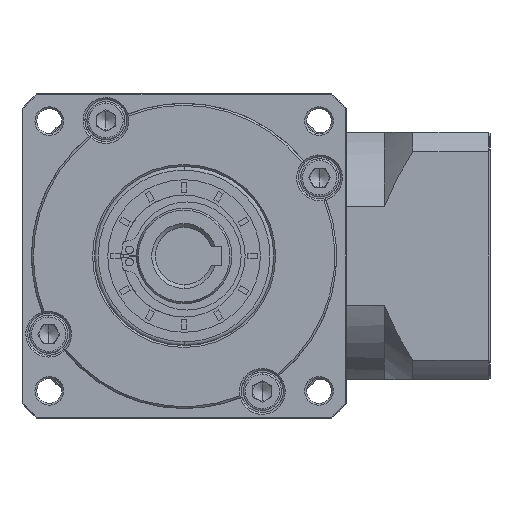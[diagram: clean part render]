
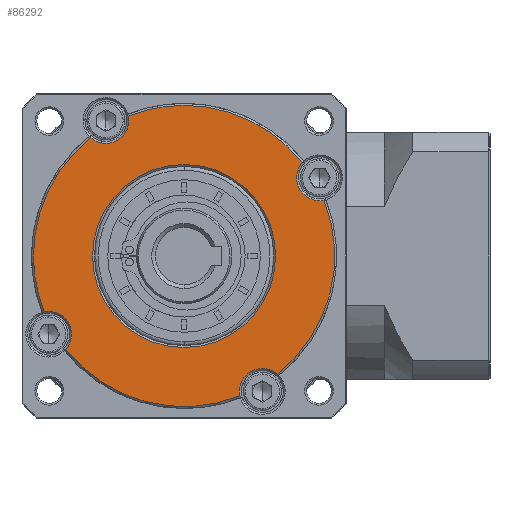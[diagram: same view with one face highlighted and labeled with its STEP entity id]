
A CAD part, left-side view. The second image highlights one B-rep face of the part: STEP entity #86292.
In plain terms, the highlighted planar face has unit normal (-1, 0, 0).
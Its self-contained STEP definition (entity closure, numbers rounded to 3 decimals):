
#1195 = CIRCLE ( 'NONE', #14615, 39.5 ) ;
#2890 = CARTESIAN_POINT ( 'NONE',  ( -97.611, 22.737, -99.292 ) ) ;
#3151 = DIRECTION ( 'NONE',  ( 1., 0., 0. ) ) ;
#5213 = CIRCLE ( 'NONE', #53868, 6. ) ;
#7346 = DIRECTION ( 'NONE',  ( 0., 0., -1. ) ) ;
#8633 = CIRCLE ( 'NONE', #29984, 6. ) ;
#8760 = CARTESIAN_POINT ( 'NONE',  ( -97.611, -1.733, -90.8 ) ) ;
#8909 = ORIENTED_EDGE ( 'NONE', *, *, #165210, .T. ) ;
#9974 = VERTEX_POINT ( 'NONE', #72251 ) ;
#14485 = CARTESIAN_POINT ( 'NONE',  ( -97.611, 22.267, -130.3 ) ) ;
#14615 = AXIS2_PLACEMENT_3D ( 'NONE', #123213, #45192, #136313 ) ;
#16069 = CIRCLE ( 'NONE', #141426, 39.5 ) ;
#16289 = AXIS2_PLACEMENT_3D ( 'NONE', #49496, #140591, #62611 ) ;
#17917 = CARTESIAN_POINT ( 'NONE',  ( -97.611, -25.733, -130.3 ) ) ;
#18061 = CIRCLE ( 'NONE', #103305, 39.5 ) ;
#20543 = VERTEX_POINT ( 'NONE', #2890 ) ;
#21657 = EDGE_CURVE ( 'NONE', #118715, #88411, #87325, .T. ) ;
#22890 = EDGE_CURVE ( 'NONE', #128091, #88411, #128200, .T. ) ;
#23802 = EDGE_CURVE ( 'NONE', #168684, #9974, #5213, .T. ) ;
#26676 = AXIS2_PLACEMENT_3D ( 'NONE', #71726, #162822, #84790 ) ;
#29368 = DIRECTION ( 'NONE',  ( 1., 0., 0. ) ) ;
#29984 = AXIS2_PLACEMENT_3D ( 'NONE', #163444, #85430, #7346 ) ;
#30499 = CARTESIAN_POINT ( 'NONE',  ( -97.611, 37.767, -130.3 ) ) ;
#31376 = CARTESIAN_POINT ( 'NONE',  ( -97.611, 29.275, -154.769 ) ) ;
#33609 = AXIS2_PLACEMENT_3D ( 'NONE', #62277, #153383, #75357 ) ;
#40104 = VERTEX_POINT ( 'NONE', #30499 ) ;
#40509 = CIRCLE ( 'NONE', #168084, 6. ) ;
#41390 = EDGE_LOOP ( 'NONE', ( #121475, #43562, #8909, #106135, #95719, #103578, #113040, #168531, #151539, #49393, #74794, #63487 ) ) ;
#43562 = ORIENTED_EDGE ( 'NONE', *, *, #70971, .T. ) ;
#43854 = CIRCLE ( 'NONE', #109013, 39.5 ) ;
#44463 = CARTESIAN_POINT ( 'NONE',  ( -97.611, -22.233, -165.807 ) ) ;
#45182 = EDGE_CURVE ( 'NONE', #138528, #136750, #16069, .T. ) ;
#45192 = DIRECTION ( 'NONE',  ( 1., 0., 0. ) ) ;
#46348 = CARTESIAN_POINT ( 'NONE',  ( -97.611, -38.428, -115.681 ) ) ;
#49393 = ORIENTED_EDGE ( 'NONE', *, *, #71781, .T. ) ;
#49496 = CARTESIAN_POINT ( 'NONE',  ( -97.611, 18.767, -94.792 ) ) ;
#49551 = DIRECTION ( 'NONE',  ( 1., 0., 0. ) ) ;
#49649 = DIRECTION ( 'NONE',  ( 1., 0., 0. ) ) ;
#52989 = CARTESIAN_POINT ( 'NONE',  ( -97.611, -16.351, -166.995 ) ) ;
#53868 = AXIS2_PLACEMENT_3D ( 'NONE', #127635, #49551, #140649 ) ;
#54988 = AXIS2_PLACEMENT_3D ( 'NONE', #62452, #153547, #75526 ) ;
#55709 = CARTESIAN_POINT ( 'NONE',  ( -97.611, -1.733, -130.3 ) ) ;
#57272 = ORIENTED_EDGE ( 'NONE', *, *, #128700, .T. ) ;
#57564 = DIRECTION ( 'NONE',  ( 0., 0., -1. ) ) ;
#57982 = EDGE_CURVE ( 'NONE', #128091, #136750, #40509, .T. ) ;
#58695 = CARTESIAN_POINT ( 'NONE',  ( -97.611, -1.733, -130.3 ) ) ;
#61420 = EDGE_CURVE ( 'NONE', #144770, #99217, #18061, .T. ) ;
#62277 = CARTESIAN_POINT ( 'NONE',  ( -97.611, -1.733, -130.3 ) ) ;
#62452 = CARTESIAN_POINT ( 'NONE',  ( -97.611, 18.767, -94.792 ) ) ;
#62611 = DIRECTION ( 'NONE',  ( 0., 0., -1. ) ) ;
#63487 = ORIENTED_EDGE ( 'NONE', *, *, #90590, .F. ) ;
#64436 = FACE_OUTER_BOUND ( 'NONE', #41390, .T. ) ;
#65820 = CIRCLE ( 'NONE', #26676, 24. ) ;
#68262 = CIRCLE ( 'NONE', #145189, 24. ) ;
#68769 = DIRECTION ( 'NONE',  ( 0., 1., 0. ) ) ;
#70086 = AXIS2_PLACEMENT_3D ( 'NONE', #107512, #29368, #120554 ) ;
#70113 = AXIS2_PLACEMENT_3D ( 'NONE', #127717, #49649, #140747 ) ;
#70971 = EDGE_CURVE ( 'NONE', #144770, #156547, #133604, .T. ) ;
#71726 = CARTESIAN_POINT ( 'NONE',  ( -97.611, -1.733, -130.3 ) ) ;
#71781 = EDGE_CURVE ( 'NONE', #138528, #168684, #8633, .T. ) ;
#71790 = DIRECTION ( 'NONE',  ( 0., 0., 1. ) ) ;
#72251 = CARTESIAN_POINT ( 'NONE',  ( -97.611, -32.741, -105.83 ) ) ;
#72505 = DIRECTION ( 'NONE',  ( 1., 0., 0. ) ) ;
#73608 = CARTESIAN_POINT ( 'NONE',  ( -97.611, -1.733, -130.3 ) ) ;
#73692 = CARTESIAN_POINT ( 'NONE',  ( -97.611, 34.963, -144.918 ) ) ;
#74794 = ORIENTED_EDGE ( 'NONE', *, *, #23802, .T. ) ;
#75357 = DIRECTION ( 'NONE',  ( 0., 0., -1. ) ) ;
#75526 = DIRECTION ( 'NONE',  ( 0., 0., -1. ) ) ;
#76511 = EDGE_CURVE ( 'NONE', #118715, #40104, #169090, .T. ) ;
#80011 = CARTESIAN_POINT ( 'NONE',  ( -97.611, -26.202, -161.307 ) ) ;
#81245 = CARTESIAN_POINT ( 'NONE',  ( -97.611, -1.733, -130.3 ) ) ;
#84790 = DIRECTION ( 'NONE',  ( 0., -1., 0. ) ) ;
#85316 = CARTESIAN_POINT ( 'NONE',  ( -97.611, -37.24, -115.8 ) ) ;
#85430 = DIRECTION ( 'NONE',  ( 1., 0., 0. ) ) ;
#86292 = ADVANCED_FACE ( 'NONE', ( #64436, #133773 ), #87912, .T. ) ;
#86705 = DIRECTION ( 'NONE',  ( 0., 0., 1. ) ) ;
#87325 = CIRCLE ( 'NONE', #162642, 6. ) ;
#87912 = PLANE ( 'NONE',  #33609 ) ;
#88411 = VERTEX_POINT ( 'NONE', #31376 ) ;
#90590 = EDGE_CURVE ( 'NONE', #99217, #9974, #1195, .T. ) ;
#94395 = DIRECTION ( 'NONE',  ( 0., -1., 0. ) ) ;
#95719 = ORIENTED_EDGE ( 'NONE', *, *, #76511, .F. ) ;
#99217 = VERTEX_POINT ( 'NONE', #8760 ) ;
#103305 = AXIS2_PLACEMENT_3D ( 'NONE', #73608, #164685, #86705 ) ;
#103578 = ORIENTED_EDGE ( 'NONE', *, *, #21657, .T. ) ;
#106135 = ORIENTED_EDGE ( 'NONE', *, *, #164107, .F. ) ;
#107512 = CARTESIAN_POINT ( 'NONE',  ( -97.611, -1.733, -130.3 ) ) ;
#109013 = AXIS2_PLACEMENT_3D ( 'NONE', #55709, #146771, #68769 ) ;
#113040 = ORIENTED_EDGE ( 'NONE', *, *, #22890, .F. ) ;
#118715 = VERTEX_POINT ( 'NONE', #73692 ) ;
#119318 = EDGE_CURVE ( 'NONE', #149348, #121896, #65820, .T. ) ;
#120554 = DIRECTION ( 'NONE',  ( 0., 0., 1. ) ) ;
#121475 = ORIENTED_EDGE ( 'NONE', *, *, #61420, .F. ) ;
#121896 = VERTEX_POINT ( 'NONE', #17917 ) ;
#122624 = CARTESIAN_POINT ( 'NONE',  ( -97.611, 18.767, -100.792 ) ) ;
#123213 = CARTESIAN_POINT ( 'NONE',  ( -97.611, -1.733, -130.3 ) ) ;
#123263 = ORIENTED_EDGE ( 'NONE', *, *, #119318, .T. ) ;
#127635 = CARTESIAN_POINT ( 'NONE',  ( -97.611, -37.24, -109.8 ) ) ;
#127717 = CARTESIAN_POINT ( 'NONE',  ( -97.611, -1.733, -130.3 ) ) ;
#128091 = VERTEX_POINT ( 'NONE', #52989 ) ;
#128200 = CIRCLE ( 'NONE', #70086, 39.5 ) ;
#128700 = EDGE_CURVE ( 'NONE', #121896, #149348, #68262, .T. ) ;
#130072 = EDGE_LOOP ( 'NONE', ( #57272, #123263 ) ) ;
#133604 = CIRCLE ( 'NONE', #54988, 6. ) ;
#133773 = FACE_BOUND ( 'NONE', #130072, .T. ) ;
#135585 = DIRECTION ( 'NONE',  ( 1., 0., 0. ) ) ;
#136313 = DIRECTION ( 'NONE',  ( 0., 0., 1. ) ) ;
#136750 = VERTEX_POINT ( 'NONE', #80011 ) ;
#138528 = VERTEX_POINT ( 'NONE', #46348 ) ;
#140591 = DIRECTION ( 'NONE',  ( 1., 0., 0. ) ) ;
#140649 = DIRECTION ( 'NONE',  ( 0., 0., -1. ) ) ;
#140747 = DIRECTION ( 'NONE',  ( 0., 1., 0. ) ) ;
#141426 = AXIS2_PLACEMENT_3D ( 'NONE', #58695, #149775, #71790 ) ;
#144770 = VERTEX_POINT ( 'NONE', #149173 ) ;
#145189 = AXIS2_PLACEMENT_3D ( 'NONE', #81245, #3151, #94395 ) ;
#146771 = DIRECTION ( 'NONE',  ( 1., 0., 0. ) ) ;
#149173 = CARTESIAN_POINT ( 'NONE',  ( -97.611, 12.886, -93.604 ) ) ;
#149348 = VERTEX_POINT ( 'NONE', #14485 ) ;
#149775 = DIRECTION ( 'NONE',  ( 1., 0., 0. ) ) ;
#150478 = CARTESIAN_POINT ( 'NONE',  ( -97.611, 33.774, -150.8 ) ) ;
#151016 = CIRCLE ( 'NONE', #16289, 6. ) ;
#151539 = ORIENTED_EDGE ( 'NONE', *, *, #45182, .F. ) ;
#153383 = DIRECTION ( 'NONE',  ( -1., 0., 0. ) ) ;
#153547 = DIRECTION ( 'NONE',  ( 1., 0., 0. ) ) ;
#156547 = VERTEX_POINT ( 'NONE', #122624 ) ;
#162642 = AXIS2_PLACEMENT_3D ( 'NONE', #150478, #72505, #163591 ) ;
#162822 = DIRECTION ( 'NONE',  ( 1., 0., 0. ) ) ;
#163444 = CARTESIAN_POINT ( 'NONE',  ( -97.611, -37.24, -109.8 ) ) ;
#163591 = DIRECTION ( 'NONE',  ( 0., 0., -1. ) ) ;
#164107 = EDGE_CURVE ( 'NONE', #40104, #20543, #43854, .T. ) ;
#164685 = DIRECTION ( 'NONE',  ( 1., 0., 0. ) ) ;
#165210 = EDGE_CURVE ( 'NONE', #156547, #20543, #151016, .T. ) ;
#168084 = AXIS2_PLACEMENT_3D ( 'NONE', #44463, #135585, #57564 ) ;
#168531 = ORIENTED_EDGE ( 'NONE', *, *, #57982, .T. ) ;
#168684 = VERTEX_POINT ( 'NONE', #85316 ) ;
#169090 = CIRCLE ( 'NONE', #70113, 39.5 ) ;
